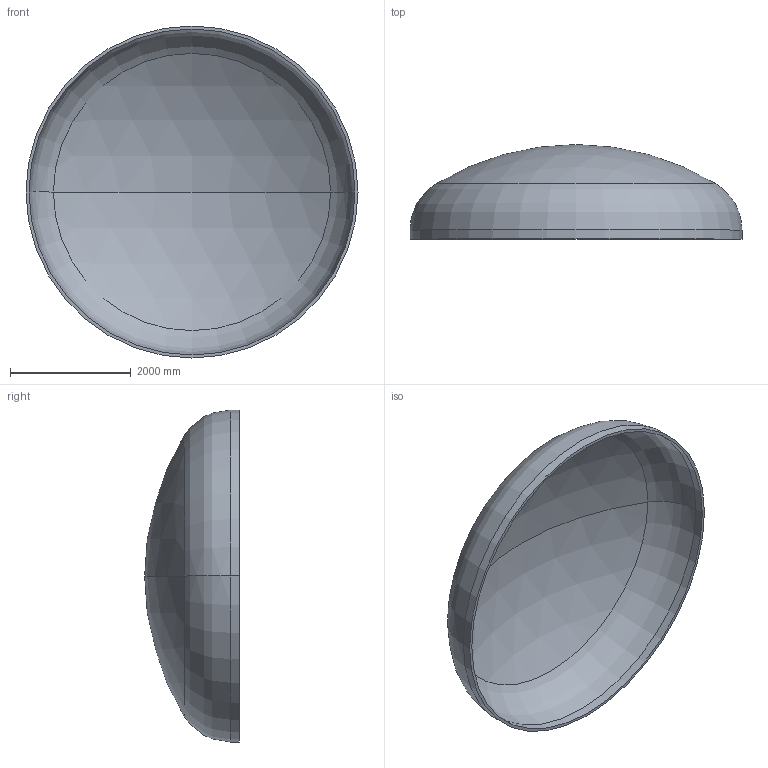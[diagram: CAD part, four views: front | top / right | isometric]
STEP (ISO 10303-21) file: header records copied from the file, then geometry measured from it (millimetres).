
FILE_DESCRIPTION (( 'STEP AP203' ), '1' );
FILE_NAME ('DIN 28013 Korbbogenform_-_Boden DIN 28013 - 5500 x 150 - I - s=50.step', '2016-07-04T10:34:24', ( '' ), ( '' ), 'SwSTEP 2.0', 'SolidWorks 2013', '' );
FILE_SCHEMA (( 'CONFIG_CONTROL_DESIGN' ));
Length unit declared in the file: millimetre
Products named in the file (1): DIN 28013 Korbbogenform_-_Boden DIN 28013 - 5500 x 150 - I - s=50
Bounding box: 5500 x 1567.34 x 5500 mm (x, y, z)
Volume: 1753247402.9 mm3; surface area: 70991189.8 mm2
Topology: 1 solids, 1 shells, 13 faces, 24 edges, 14 vertices
Faces by surface type: torus 4, cylinder 4, sphere 4, plane 1
Entity records: 407 total; most frequent: DIRECTION 72, CARTESIAN_POINT 52, ORIENTED_EDGE 48, AXIS2_PLACEMENT_3D 34, EDGE_CURVE 24, CIRCLE 20, VERTEX_POINT 14, EDGE_LOOP 14
